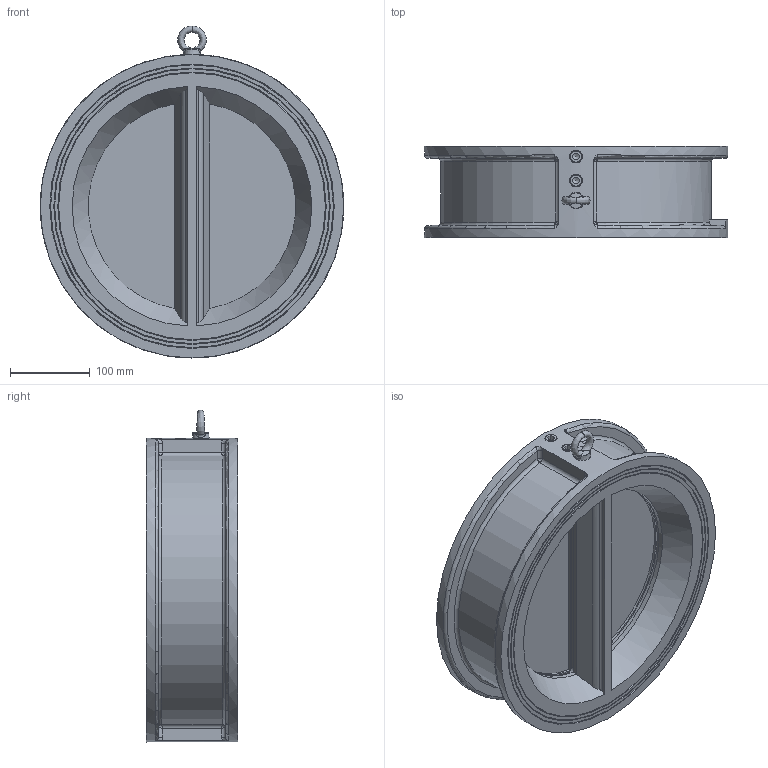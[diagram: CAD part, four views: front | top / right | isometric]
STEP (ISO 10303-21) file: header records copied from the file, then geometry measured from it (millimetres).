
FILE_DESCRIPTION (( 'STEP AP203' ), '1' );
FILE_NAME ('5306 DN300 ×°Åä PN16.STEP', '2025-07-22T02:25:40', ( '' ), ( '' ), 'SwSTEP 2.0', 'SolidWorks 2018', '' );
FILE_SCHEMA (( 'CONFIG_CONTROL_DESIGN' ));
Length unit declared in the file: millimetre
Products named in the file (7): GB╱T 77-2007[内六角平端紧定螺钉M16×16]_M16×16; 300蝶; GB╱T 825-1988[吊环螺钉M8]_M8; 5306 DN300 蚾饜 PN16; 5306 DN300 概粣; 5306 DN300 概啣; 5306 DN300 概极
Assembly tree (11 placements, depth 2):
  5306 DN300 蚾饜 PN16
    5306 DN300 概极
    300蝶
    5306 DN300 概粣  x2
    5306 DN300 概啣  x2
    GB╱T 77-2007[内六角平端紧定螺钉M16×16]_M16×16  x4
    GB╱T 825-1988[吊环螺钉M8]_M8
Bounding box: 380 x 114 x 415.6 mm (x, y, z)
Volume: 4648887.4 mm3; surface area: 686100.7 mm2
Topology: 12 solids, 12 shells, 300 faces, 700 edges, 419 vertices
Faces by surface type: plane 131, cylinder 75, bspline 41, cone 40, torus 13
Full cylindrical faces by diameter (mm): 6.8 x1, 8 x1, 13 x1, 14 x2, 14.4 x4, 14.6 x4, 16 x4, 18 x4, 310 x1, 380 x1
Entity records: 10618 total; most frequent: CARTESIAN_POINT 5496, ORIENTED_EDGE 856, DIRECTION 829, EDGE_CURVE 428, AXIS2_PLACEMENT_3D 345, EDGE_LOOP 286, VERTEX_POINT 284, FACE_OUTER_BOUND 231
